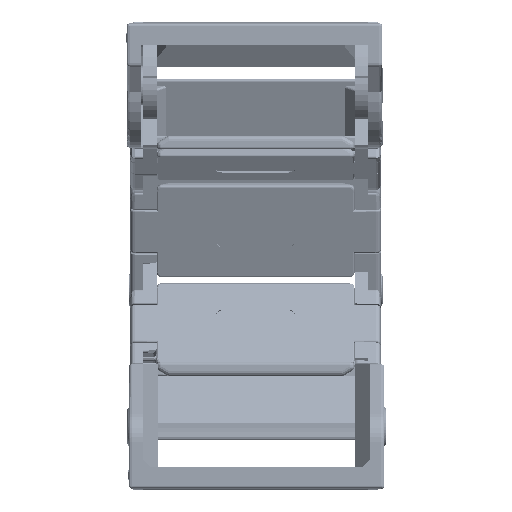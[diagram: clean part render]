
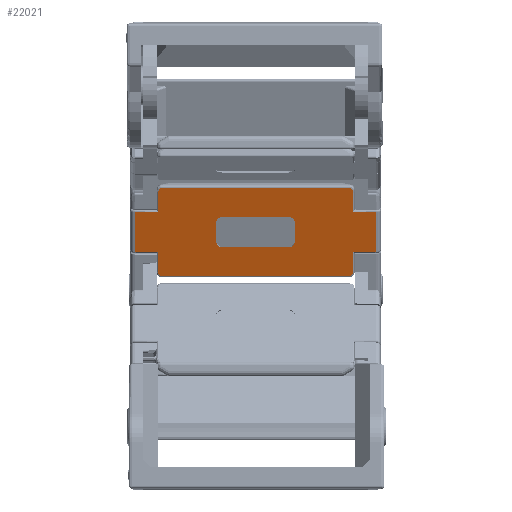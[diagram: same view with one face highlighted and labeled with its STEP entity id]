
A CAD part, front view. The second image highlights one B-rep face of the part: STEP entity #22021.
In plain terms, the highlighted planar face has unit normal (0, -0.936, -0.352).
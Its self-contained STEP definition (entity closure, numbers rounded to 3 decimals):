
#731=FACE_BOUND('',#49926,.T.);
#732=FACE_BOUND('',#49927,.T.);
#12120=CIRCLE('',#207891,0.45);
#12121=CIRCLE('',#207892,0.45);
#12122=CIRCLE('',#207893,0.45);
#12123=CIRCLE('',#207894,0.45);
#12124=CIRCLE('',#207895,1.);
#12125=CIRCLE('',#207896,1.);
#12126=CIRCLE('',#207897,1.);
#12127=CIRCLE('',#207898,1.);
#22021=ADVANCED_FACE('',(#731,#732),#31891,.T.);
#31891=PLANE('',#207899);
#49926=EDGE_LOOP('',(#109903,#109904,#109905,#109906,#109907,#109908,#109909,
#109910,#109911,#109912,#109913,#109914,#109915,#109916,#109917,#109918));
#49927=EDGE_LOOP('',(#109919,#109920,#109921,#109922,#109923,#109924,#109925,
#109926));
#66209=LINE('',#310579,#82021);
#66210=LINE('',#310584,#82022);
#66211=LINE('',#310586,#82023);
#66212=LINE('',#310588,#82024);
#66213=LINE('',#310590,#82025);
#66214=LINE('',#310592,#82026);
#66215=LINE('',#310596,#82027);
#66216=LINE('',#310600,#82028);
#66217=LINE('',#310602,#82029);
#66218=LINE('',#310604,#82030);
#66219=LINE('',#310606,#82031);
#66220=LINE('',#310608,#82032);
#66221=LINE('',#310614,#82033);
#66222=LINE('',#310618,#82034);
#66223=LINE('',#310622,#82035);
#66224=LINE('',#310626,#82036);
#82021=VECTOR('',#240874,1.);
#82022=VECTOR('',#240877,1.);
#82023=VECTOR('',#240878,1.);
#82024=VECTOR('',#240879,1.);
#82025=VECTOR('',#240880,1.);
#82026=VECTOR('',#240881,1.);
#82027=VECTOR('',#240884,1.);
#82028=VECTOR('',#240887,1.);
#82029=VECTOR('',#240888,1.);
#82030=VECTOR('',#240889,1.);
#82031=VECTOR('',#240890,1.);
#82032=VECTOR('',#240891,1.);
#82033=VECTOR('',#240896,1.);
#82034=VECTOR('',#240899,1.);
#82035=VECTOR('',#240902,1.);
#82036=VECTOR('',#240905,1.);
#109903=ORIENTED_EDGE('',*,*,#178567,.T.);
#109904=ORIENTED_EDGE('',*,*,#178568,.F.);
#109905=ORIENTED_EDGE('',*,*,#178569,.T.);
#109906=ORIENTED_EDGE('',*,*,#178570,.T.);
#109907=ORIENTED_EDGE('',*,*,#178571,.T.);
#109908=ORIENTED_EDGE('',*,*,#178572,.T.);
#109909=ORIENTED_EDGE('',*,*,#178573,.T.);
#109910=ORIENTED_EDGE('',*,*,#178574,.T.);
#109911=ORIENTED_EDGE('',*,*,#178575,.T.);
#109912=ORIENTED_EDGE('',*,*,#178576,.T.);
#109913=ORIENTED_EDGE('',*,*,#178577,.T.);
#109914=ORIENTED_EDGE('',*,*,#178578,.T.);
#109915=ORIENTED_EDGE('',*,*,#178579,.F.);
#109916=ORIENTED_EDGE('',*,*,#178580,.T.);
#109917=ORIENTED_EDGE('',*,*,#178581,.T.);
#109918=ORIENTED_EDGE('',*,*,#178582,.T.);
#109919=ORIENTED_EDGE('',*,*,#178583,.T.);
#109920=ORIENTED_EDGE('',*,*,#178584,.T.);
#109921=ORIENTED_EDGE('',*,*,#178585,.T.);
#109922=ORIENTED_EDGE('',*,*,#178586,.T.);
#109923=ORIENTED_EDGE('',*,*,#178587,.T.);
#109924=ORIENTED_EDGE('',*,*,#178588,.T.);
#109925=ORIENTED_EDGE('',*,*,#178589,.T.);
#109926=ORIENTED_EDGE('',*,*,#178590,.T.);
#157412=VERTEX_POINT('',#310580);
#157413=VERTEX_POINT('',#310581);
#157414=VERTEX_POINT('',#310583);
#157415=VERTEX_POINT('',#310585);
#157416=VERTEX_POINT('',#310587);
#157417=VERTEX_POINT('',#310589);
#157418=VERTEX_POINT('',#310591);
#157419=VERTEX_POINT('',#310593);
#157420=VERTEX_POINT('',#310595);
#157421=VERTEX_POINT('',#310597);
#157422=VERTEX_POINT('',#310599);
#157423=VERTEX_POINT('',#310601);
#157424=VERTEX_POINT('',#310603);
#157425=VERTEX_POINT('',#310605);
#157426=VERTEX_POINT('',#310607);
#157427=VERTEX_POINT('',#310609);
#157428=VERTEX_POINT('',#310612);
#157429=VERTEX_POINT('',#310613);
#157430=VERTEX_POINT('',#310615);
#157431=VERTEX_POINT('',#310617);
#157432=VERTEX_POINT('',#310619);
#157433=VERTEX_POINT('',#310621);
#157434=VERTEX_POINT('',#310623);
#157435=VERTEX_POINT('',#310625);
#178567=EDGE_CURVE('',#157412,#157413,#66209,.T.);
#178568=EDGE_CURVE('',#157414,#157413,#12120,.T.);
#178569=EDGE_CURVE('',#157414,#157415,#66210,.T.);
#178570=EDGE_CURVE('',#157415,#157416,#66211,.T.);
#178571=EDGE_CURVE('',#157416,#157417,#66212,.T.);
#178572=EDGE_CURVE('',#157417,#157418,#66213,.T.);
#178573=EDGE_CURVE('',#157418,#157419,#66214,.T.);
#178574=EDGE_CURVE('',#157419,#157420,#12121,.T.);
#178575=EDGE_CURVE('',#157420,#157421,#66215,.T.);
#178576=EDGE_CURVE('',#157421,#157422,#12122,.T.);
#178577=EDGE_CURVE('',#157422,#157423,#66216,.T.);
#178578=EDGE_CURVE('',#157423,#157424,#66217,.T.);
#178579=EDGE_CURVE('',#157425,#157424,#66218,.T.);
#178580=EDGE_CURVE('',#157425,#157426,#66219,.T.);
#178581=EDGE_CURVE('',#157426,#157427,#66220,.T.);
#178582=EDGE_CURVE('',#157427,#157412,#12123,.T.);
#178583=EDGE_CURVE('',#157428,#157429,#12124,.T.);
#178584=EDGE_CURVE('',#157429,#157430,#66221,.T.);
#178585=EDGE_CURVE('',#157430,#157431,#12125,.T.);
#178586=EDGE_CURVE('',#157431,#157432,#66222,.T.);
#178587=EDGE_CURVE('',#157432,#157433,#12126,.T.);
#178588=EDGE_CURVE('',#157433,#157434,#66223,.T.);
#178589=EDGE_CURVE('',#157434,#157435,#12127,.T.);
#178590=EDGE_CURVE('',#157435,#157428,#66224,.T.);
#207891=AXIS2_PLACEMENT_3D('',#310582,#240875,#240876);
#207892=AXIS2_PLACEMENT_3D('',#310594,#240882,#240883);
#207893=AXIS2_PLACEMENT_3D('',#310598,#240885,#240886);
#207894=AXIS2_PLACEMENT_3D('',#310610,#240892,#240893);
#207895=AXIS2_PLACEMENT_3D('',#310611,#240894,#240895);
#207896=AXIS2_PLACEMENT_3D('',#310616,#240897,#240898);
#207897=AXIS2_PLACEMENT_3D('',#310620,#240900,#240901);
#207898=AXIS2_PLACEMENT_3D('',#310624,#240903,#240904);
#207899=AXIS2_PLACEMENT_3D('',#310627,#240906,#240907);
#240874=DIRECTION('',(1.,0.,0.));
#240875=DIRECTION('',(0.,0.936,0.352));
#240876=DIRECTION('',(1.,0.,0.));
#240877=DIRECTION('',(0.,-0.352,0.936));
#240878=DIRECTION('',(1.,0.,0.));
#240879=DIRECTION('',(0.,-0.352,0.936));
#240880=DIRECTION('',(-1.,0.,0.));
#240881=DIRECTION('',(0.,-0.352,0.936));
#240882=DIRECTION('',(0.,-0.936,-0.352));
#240883=DIRECTION('',(1.,0.,0.));
#240884=DIRECTION('',(-1.,0.,0.));
#240885=DIRECTION('',(0.,-0.936,-0.352));
#240886=DIRECTION('',(1.,0.,0.));
#240887=DIRECTION('',(0.,0.352,-0.936));
#240888=DIRECTION('',(-1.,0.,0.));
#240889=DIRECTION('',(0.,-0.352,0.936));
#240890=DIRECTION('',(1.,0.,0.));
#240891=DIRECTION('',(0.,0.352,-0.936));
#240892=DIRECTION('',(0.,-0.936,-0.352));
#240893=DIRECTION('',(1.,0.,0.));
#240894=DIRECTION('',(0.,0.936,0.352));
#240895=DIRECTION('',(1.,0.,0.));
#240896=DIRECTION('',(0.,0.352,-0.936));
#240897=DIRECTION('',(0.,0.936,0.352));
#240898=DIRECTION('',(1.,0.,0.));
#240899=DIRECTION('',(-1.,0.,0.));
#240900=DIRECTION('',(0.,0.936,0.352));
#240901=DIRECTION('',(1.,0.,0.));
#240902=DIRECTION('',(0.,-0.352,0.936));
#240903=DIRECTION('',(0.,0.936,0.352));
#240904=DIRECTION('',(1.,0.,0.));
#240905=DIRECTION('',(1.,0.,0.));
#240906=DIRECTION('',(0.,-0.936,-0.352));
#240907=DIRECTION('',(-1.,0.,0.));
#310579=CARTESIAN_POINT('',(62.75,299.453,22.923));
#310580=CARTESIAN_POINT('',(61.75,299.453,22.923));
#310581=CARTESIAN_POINT('',(90.45,299.453,22.923));
#310582=CARTESIAN_POINT('',(90.45,299.295,23.344));
#310583=CARTESIAN_POINT('',(90.9,299.295,23.344));
#310584=CARTESIAN_POINT('',(90.9,303.548,12.052));
#310585=CARTESIAN_POINT('',(90.9,298.044,26.666));
#310586=CARTESIAN_POINT('',(62.75,298.044,26.666));
#310587=CARTESIAN_POINT('',(94.45,298.044,26.666));
#310588=CARTESIAN_POINT('',(94.45,303.548,12.052));
#310589=CARTESIAN_POINT('',(94.45,295.788,32.655));
#310590=CARTESIAN_POINT('',(62.75,295.788,32.655));
#310591=CARTESIAN_POINT('',(90.9,295.788,32.655));
#310592=CARTESIAN_POINT('',(90.9,303.548,12.052));
#310593=CARTESIAN_POINT('',(90.9,294.537,35.978));
#310594=CARTESIAN_POINT('',(90.45,294.537,35.978));
#310595=CARTESIAN_POINT('',(90.45,294.378,36.399));
#310596=CARTESIAN_POINT('',(62.75,294.378,36.399));
#310597=CARTESIAN_POINT('',(61.75,294.378,36.399));
#310598=CARTESIAN_POINT('',(61.75,294.537,35.978));
#310599=CARTESIAN_POINT('',(61.3,294.537,35.978));
#310600=CARTESIAN_POINT('',(61.3,303.548,12.052));
#310601=CARTESIAN_POINT('',(61.3,295.788,32.655));
#310602=CARTESIAN_POINT('',(62.75,295.788,32.655));
#310603=CARTESIAN_POINT('',(57.75,295.788,32.655));
#310604=CARTESIAN_POINT('',(57.75,303.548,12.052));
#310605=CARTESIAN_POINT('',(57.75,298.044,26.666));
#310606=CARTESIAN_POINT('',(62.75,298.044,26.666));
#310607=CARTESIAN_POINT('',(61.3,298.044,26.666));
#310608=CARTESIAN_POINT('',(61.3,303.548,12.052));
#310609=CARTESIAN_POINT('',(61.3,299.295,23.344));
#310610=CARTESIAN_POINT('',(61.75,299.295,23.344));
#310611=CARTESIAN_POINT('',(81.1,296.387,31.065));
#310612=CARTESIAN_POINT('',(81.1,296.035,32.));
#310613=CARTESIAN_POINT('',(82.1,296.387,31.065));
#310614=CARTESIAN_POINT('',(82.1,303.548,12.052));
#310615=CARTESIAN_POINT('',(82.1,297.444,28.257));
#310616=CARTESIAN_POINT('',(81.1,297.444,28.257));
#310617=CARTESIAN_POINT('',(81.1,297.797,27.321));
#310618=CARTESIAN_POINT('',(62.75,297.797,27.321));
#310619=CARTESIAN_POINT('',(71.1,297.797,27.321));
#310620=CARTESIAN_POINT('',(71.1,297.444,28.257));
#310621=CARTESIAN_POINT('',(70.1,297.444,28.257));
#310622=CARTESIAN_POINT('',(70.1,303.548,12.052));
#310623=CARTESIAN_POINT('',(70.1,296.387,31.065));
#310624=CARTESIAN_POINT('',(71.1,296.387,31.065));
#310625=CARTESIAN_POINT('',(71.1,296.035,32.));
#310626=CARTESIAN_POINT('',(62.75,296.035,32.));
#310627=CARTESIAN_POINT('',(62.75,303.548,12.052));
